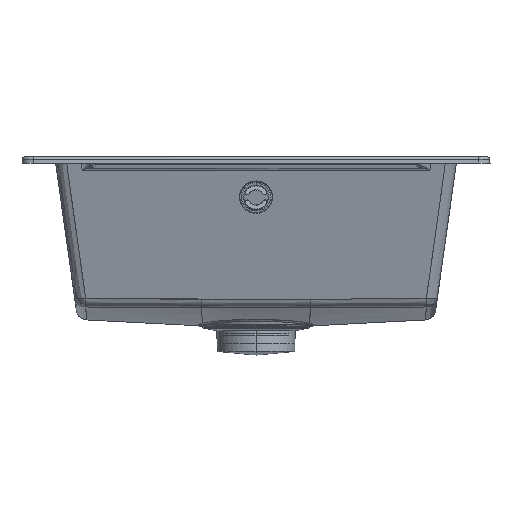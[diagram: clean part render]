
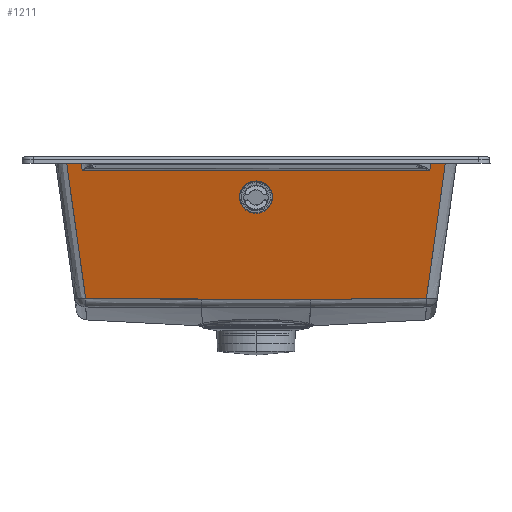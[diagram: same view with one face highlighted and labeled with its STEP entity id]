
A CAD part, left-side view. The second image highlights one B-rep face of the part: STEP entity #1211.
In plain terms, the highlighted planar face has unit normal (-0.97, 0, -0.242).
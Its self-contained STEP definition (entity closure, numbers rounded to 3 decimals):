
#285=FACE_BOUND('',#1903,.T.);
#1211=ADVANCED_FACE('',(#1556,#285),#7197,.T.);
#1556=FACE_OUTER_BOUND('',#1902,.T.);
#1902=EDGE_LOOP('',(#2367));
#1903=EDGE_LOOP('',(#2368));
#2367=ORIENTED_EDGE('',*,*,#4152,.T.);
#2368=ORIENTED_EDGE('',*,*,#4153,.T.);
#4152=EDGE_CURVE('',#6271,#6271,#5341,.T.);
#4153=EDGE_CURVE('',#6272,#6272,#5342,.T.);
#5341=B_SPLINE_CURVE_WITH_KNOTS('',3,(#9509,#9510,#9511,#9512,#9513,#9514,
#9515,#9516,#9517,#9518,#9519,#9520,#9521,#9522,#9523,#9524,#9525,#9526,
#9527,#9528,#9529,#9530,#9531,#9532,#9533,#9534,#9535,#9536,#9537,#9538,
#9539,#9540,#9541,#9542,#9543,#9544,#9545),.UNSPECIFIED.,.T.,.F.,(4,3,3,
3,3,3,3,1,1,3,1,1,3,1,1,3,4),(0.,1.,2.,3.,4.,5.,6.,6.333,6.667,
7.,7.333,7.667,8.,8.333,8.667,9.,
10.),.UNSPECIFIED.);
#5342=B_SPLINE_CURVE_WITH_KNOTS('',3,(#9546,#9547,#9548,#9549,#9550,#9551,
#9552,#9553,#9554,#9555,#9556,#9557,#9558,#9559,#9560,#9561,#9562,#9563,
#9564,#9565,#9566,#9567,#9568,#9569,#9570,#9571,#9572,#9573,#9574,#9575,
#9576,#9577,#9578),.UNSPECIFIED.,.T.,.F.,(4,1,1,1,1,1,1,1,1,1,1,1,1,1,3,
1,1,1,1,1,1,1,1,1,1,1,1,1,4),(0.,0.125,0.188,0.25,0.313,0.375,0.438,
0.5,0.563,0.625,0.688,0.75,0.813,0.875,1.,1.125,1.188,1.25,1.313,1.375,
1.438,1.5,1.563,1.625,1.688,1.75,1.813,1.875,2.),.UNSPECIFIED.);
#6271=VERTEX_POINT('',#9507);
#6272=VERTEX_POINT('',#9508);
#7197=PLANE('',#7236);
#7236=AXIS2_PLACEMENT_3D('',#9506,#7259,$);
#7259=DIRECTION('',(-0.97,0.,-0.242));
#9506=CARTESIAN_POINT('',(64.818,147.089,0.729));
#9507=CARTESIAN_POINT('',(65.567,-266.97,-2.274));
#9508=CARTESIAN_POINT('',(75.472,-48.,-42.));
#9509=CARTESIAN_POINT('',(65.567,-266.97,-2.274));
#9510=CARTESIAN_POINT('',(65.567,-261.777,-2.274));
#9511=CARTESIAN_POINT('',(65.567,-256.584,-2.274));
#9512=CARTESIAN_POINT('',(65.567,-251.39,-2.274));
#9513=CARTESIAN_POINT('',(66.561,-250.83,-6.261));
#9514=CARTESIAN_POINT('',(67.555,-250.27,-10.247));
#9515=CARTESIAN_POINT('',(68.549,-249.71,-14.234));
#9516=CARTESIAN_POINT('',(68.549,-125.903,-14.234));
#9517=CARTESIAN_POINT('',(68.549,-2.097,-14.234));
#9518=CARTESIAN_POINT('',(68.549,121.71,-14.234));
#9519=CARTESIAN_POINT('',(67.555,122.27,-10.247));
#9520=CARTESIAN_POINT('',(66.561,122.83,-6.261));
#9521=CARTESIAN_POINT('',(65.567,123.39,-2.274));
#9522=CARTESIAN_POINT('',(65.567,128.584,-2.274));
#9523=CARTESIAN_POINT('',(65.567,133.777,-2.274));
#9524=CARTESIAN_POINT('',(65.567,138.97,-2.274));
#9525=CARTESIAN_POINT('',(77.97,131.979,-52.02));
#9526=CARTESIAN_POINT('',(90.373,124.988,-101.766));
#9527=CARTESIAN_POINT('',(102.776,117.996,-151.512));
#9528=CARTESIAN_POINT('',(102.798,104.255,-151.599));
#9529=CARTESIAN_POINT('',(102.841,76.739,-151.771));
#9530=CARTESIAN_POINT('',(102.904,35.367,-152.023));
#9531=CARTESIAN_POINT('',(102.944,7.72,-152.187));
#9532=CARTESIAN_POINT('',(102.965,-6.12,-152.267));
#9533=CARTESIAN_POINT('',(102.983,-18.843,-152.341));
#9534=CARTESIAN_POINT('',(103.008,-44.389,-152.44));
#9535=CARTESIAN_POINT('',(103.008,-83.611,-152.44));
#9536=CARTESIAN_POINT('',(102.983,-109.157,-152.341));
#9537=CARTESIAN_POINT('',(102.965,-121.88,-152.267));
#9538=CARTESIAN_POINT('',(102.944,-135.72,-152.187));
#9539=CARTESIAN_POINT('',(102.904,-163.367,-152.023));
#9540=CARTESIAN_POINT('',(102.841,-204.739,-151.771));
#9541=CARTESIAN_POINT('',(102.798,-232.255,-151.599));
#9542=CARTESIAN_POINT('',(102.776,-245.996,-151.512));
#9543=CARTESIAN_POINT('',(90.373,-252.988,-101.766));
#9544=CARTESIAN_POINT('',(77.97,-259.979,-52.02));
#9545=CARTESIAN_POINT('',(65.567,-266.97,-2.274));
#9546=CARTESIAN_POINT('',(75.472,-48.,-42.));
#9547=CARTESIAN_POINT('',(75.149,-48.,-40.706));
#9548=CARTESIAN_POINT('',(74.601,-48.242,-38.509));
#9549=CARTESIAN_POINT('',(73.778,-49.516,-35.208));
#9550=CARTESIAN_POINT('',(73.144,-51.082,-32.666));
#9551=CARTESIAN_POINT('',(72.54,-53.357,-30.241));
#9552=CARTESIAN_POINT('',(72.029,-56.366,-28.191));
#9553=CARTESIAN_POINT('',(71.683,-60.001,-26.804));
#9554=CARTESIAN_POINT('',(71.56,-64.,-26.311));
#9555=CARTESIAN_POINT('',(71.683,-67.999,-26.804));
#9556=CARTESIAN_POINT('',(72.029,-71.634,-28.191));
#9557=CARTESIAN_POINT('',(72.54,-74.643,-30.241));
#9558=CARTESIAN_POINT('',(73.144,-76.918,-32.666));
#9559=CARTESIAN_POINT('',(73.778,-78.484,-35.208));
#9560=CARTESIAN_POINT('',(74.601,-79.758,-38.509));
#9561=CARTESIAN_POINT('',(75.149,-80.,-40.706));
#9562=CARTESIAN_POINT('',(75.472,-80.,-42.));
#9563=CARTESIAN_POINT('',(75.794,-80.,-43.294));
#9564=CARTESIAN_POINT('',(76.342,-79.758,-45.491));
#9565=CARTESIAN_POINT('',(77.165,-78.484,-48.792));
#9566=CARTESIAN_POINT('',(77.799,-76.918,-51.334));
#9567=CARTESIAN_POINT('',(78.404,-74.643,-53.759));
#9568=CARTESIAN_POINT('',(78.915,-71.634,-55.809));
#9569=CARTESIAN_POINT('',(79.261,-67.999,-57.196));
#9570=CARTESIAN_POINT('',(79.383,-64.,-57.689));
#9571=CARTESIAN_POINT('',(79.261,-60.001,-57.196));
#9572=CARTESIAN_POINT('',(78.915,-56.366,-55.809));
#9573=CARTESIAN_POINT('',(78.404,-53.357,-53.759));
#9574=CARTESIAN_POINT('',(77.799,-51.082,-51.334));
#9575=CARTESIAN_POINT('',(77.165,-49.516,-48.792));
#9576=CARTESIAN_POINT('',(76.342,-48.242,-45.491));
#9577=CARTESIAN_POINT('',(75.794,-48.,-43.294));
#9578=CARTESIAN_POINT('',(75.472,-48.,-42.));
